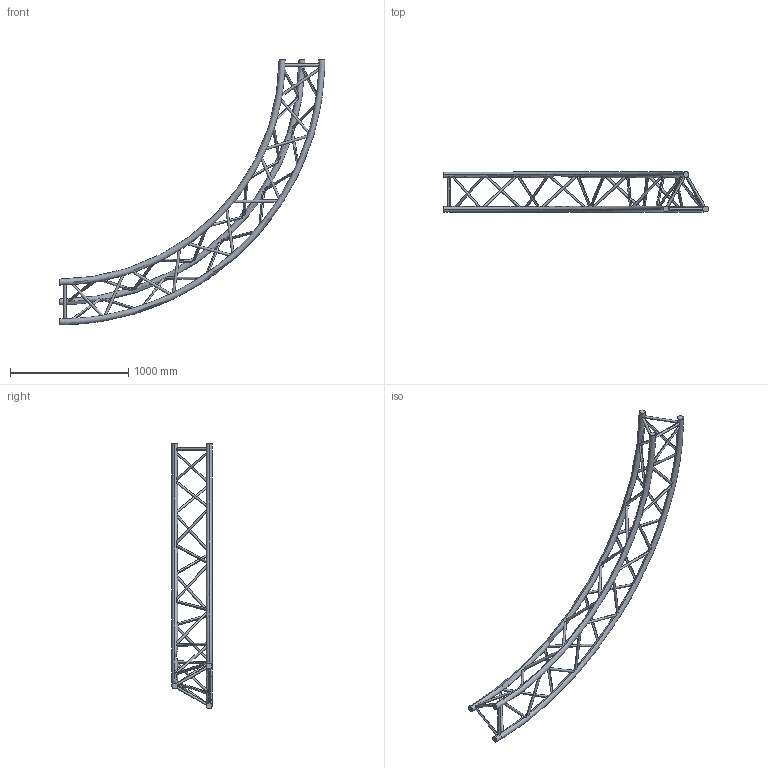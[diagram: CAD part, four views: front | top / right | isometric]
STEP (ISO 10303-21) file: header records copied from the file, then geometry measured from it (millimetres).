
FILE_DESCRIPTION (( 'STEP AP203' ), '1' );
FILE_NAME ('SXC39450PH.STEP', '2009-10-21T11:26:46', ( 'CEDIA' ), ( 'CEDIA INDUSTRIE' ), 'SwSTEP 2.0', 'SolidWorks 2009', '' );
FILE_SCHEMA (( 'CONFIG_CONTROL_DESIGN' ));
Length unit declared in the file: millimetre
Products named in the file (1): SXC39450PH
Bounding box: 2250 x 341.85 x 2250 mm (x, y, z)
Volume: 23385922 mm3; surface area: 2378094.4 mm2
Topology: 1 solids, 1 shells, 90 faces, 278 edges, 168 vertices
Faces by surface type: cylinder 78, torus 6, plane 6
Entity records: 10636 total; most frequent: CARTESIAN_POINT 8250, ORIENTED_EDGE 556, DIRECTION 348, EDGE_CURVE 278, VERTEX_POINT 168, B_SPLINE_CURVE_WITH_KNOTS 156, EDGE_LOOP 142, AXIS2_PLACEMENT_3D 135
